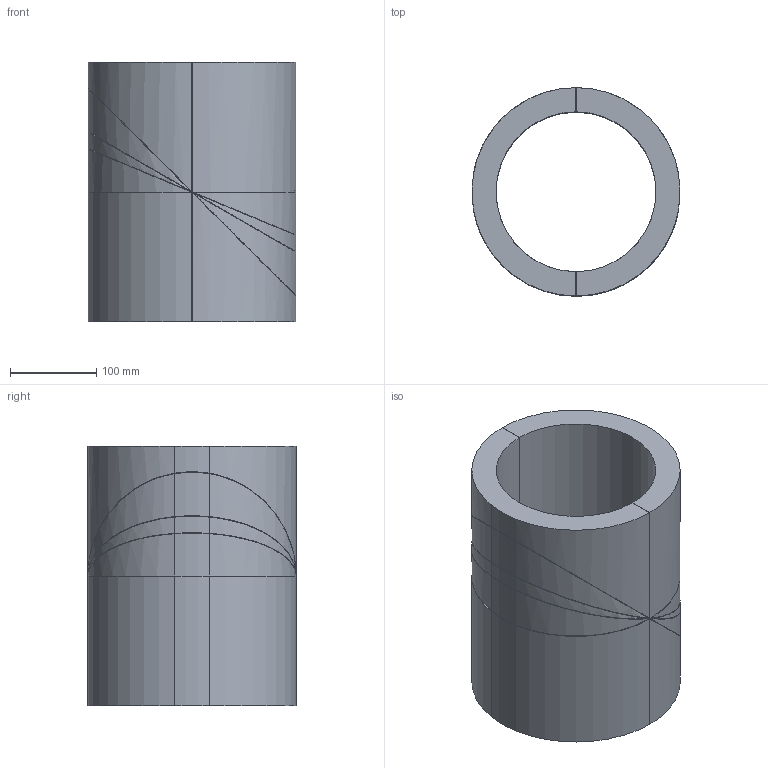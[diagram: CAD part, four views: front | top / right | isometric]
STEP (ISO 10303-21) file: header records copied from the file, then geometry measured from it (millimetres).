
FILE_DESCRIPTION(/* description */ (''),/* implementation_level */ '2;1');
FILE_NAME(/* name */ 'Z:\Geberit\Export\NewStep\315820.stp',/* time_stamp */ '2014-04-01T20:15:13+02:00',/* author */ ('bruh'),/* organization */ (''),/* preprocessor_version */ 'ST-DEVELOPER v15.2',/* originating_system */ 'Autodesk Inventor 2014',/* authorisation */ '');
FILE_SCHEMA (('AUTOMOTIVE_DESIGN { 1 0 10303 214 3 1 1 }'));
Length unit declared in the file: millimetre
Products named in the file (1): 315820
Bounding box: 240.13 x 241 x 300 mm (x, y, z)
Volume: 5563254.5 mm3; surface area: 643229.3 mm2
Topology: 10 solids, 10 shells, 116 faces, 288 edges, 192 vertices
Faces by surface type: plane 56, cylinder 40, bspline 20
Entity records: 3684 total; most frequent: CARTESIAN_POINT 721, DIRECTION 622, ORIENTED_EDGE 576, EDGE_CURVE 288, AXIS2_PLACEMENT_3D 237, VERTEX_POINT 192, LINE 148, VECTOR 148
